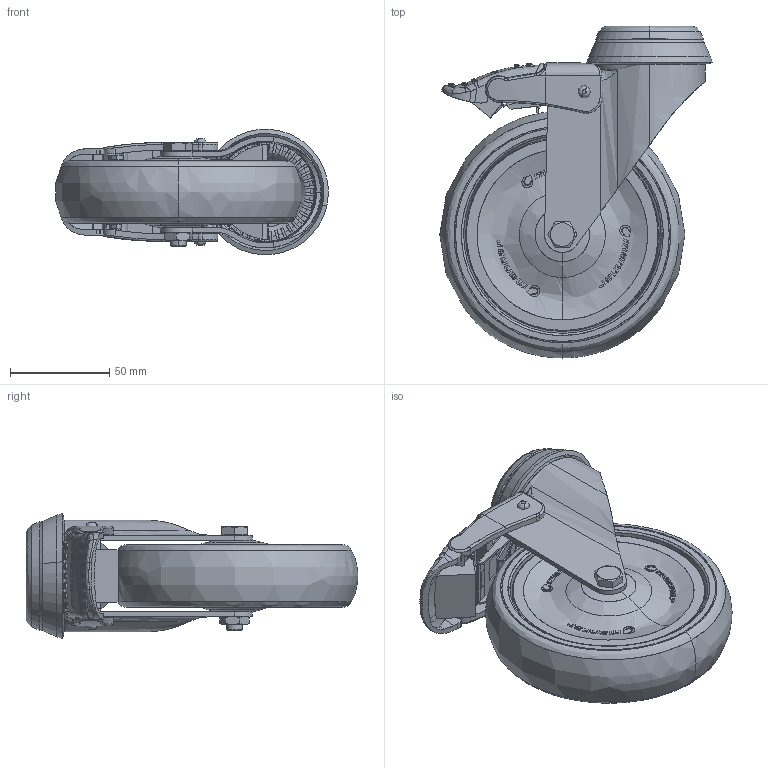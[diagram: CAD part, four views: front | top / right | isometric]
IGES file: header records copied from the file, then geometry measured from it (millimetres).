
Start section: SolidWorks IGES file using analytic representation for surfaces
Global section: file name: S:\Tyokansio\VL\14.2.2012\301585_IGES.IGS; native system: SolidWorks 2011; preprocessor: SolidWorks 2011; author: VilleLa; date: 120228.104403; units: millimetre
Bounding box: 137.53 x 167.47 x 63.32 mm (x, y, z)
Surface area: 127669.7 mm2 (no closed solid volume)
Topology: 0 solids, 0 shells, 1145 faces, 16577 edges, 16563 vertices
Faces by surface type: bspline 871, revolution 274
